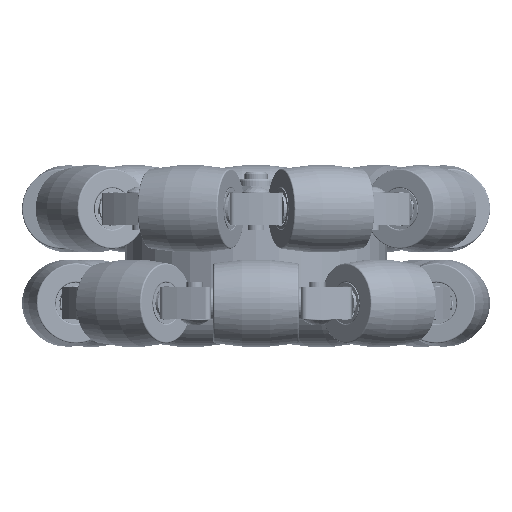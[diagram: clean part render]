
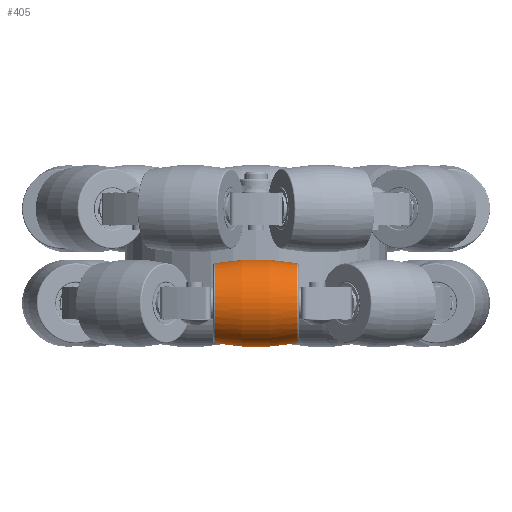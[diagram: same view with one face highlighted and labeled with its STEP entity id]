
A CAD part, front view. The second image highlights one B-rep face of the part: STEP entity #405.
In plain terms, the highlighted toroidal (fillet/blend) face has major radius 41.3 mm and minor radius 50.8 mm.
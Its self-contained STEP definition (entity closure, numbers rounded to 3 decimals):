
#335 = AXIS2_PLACEMENT_3D ( 'NONE', #13625, #6665, #14790 ) ;
#405 = ADVANCED_FACE ( 'NONE', ( #8390 ), #11436, .T. ) ;
#1054 = DIRECTION ( 'NONE',  ( 0., 1., 0. ) ) ;
#2496 = DIRECTION ( 'NONE',  ( -1., 0., 0. ) ) ;
#2981 = DIRECTION ( 'NONE',  ( 1., 0., 0. ) ) ;
#3605 = VERTEX_POINT ( 'NONE', #9318 ) ;
#3649 = EDGE_CURVE ( 'NONE', #3605, #9106, #14772, .T. ) ;
#4134 = CARTESIAN_POINT ( 'NONE',  ( -9.003, 41.3, -8.696 ) ) ;
#4206 = AXIS2_PLACEMENT_3D ( 'NONE', #7996, #1054, #9141 ) ;
#4370 = ORIENTED_EDGE ( 'NONE', *, *, #8068, .F. ) ;
#4914 = CIRCLE ( 'NONE', #4206, 50.8 ) ;
#6048 = AXIS2_PLACEMENT_3D ( 'NONE', #9913, #2981, #11068 ) ;
#6411 = CARTESIAN_POINT ( 'NONE',  ( 9.003, 41.3, -8.696 ) ) ;
#6665 = DIRECTION ( 'NONE',  ( 0., -1., 0. ) ) ;
#6703 = CARTESIAN_POINT ( 'NONE',  ( 0., 41.3, 0. ) ) ;
#7469 = CIRCLE ( 'NONE', #6048, 8.696 ) ;
#7953 = EDGE_CURVE ( 'NONE', #12795, #12053, #7469, .T. ) ;
#7996 = CARTESIAN_POINT ( 'NONE',  ( 0., 41.3, 41.3 ) ) ;
#8068 = EDGE_CURVE ( 'NONE', #3605, #12053, #12912, .T. ) ;
#8165 = EDGE_CURVE ( 'NONE', #9106, #12795, #4914, .T. ) ;
#8390 = FACE_OUTER_BOUND ( 'NONE', #10977, .T. ) ;
#8611 = CARTESIAN_POINT ( 'NONE',  ( -9.003, 41.3, 8.696 ) ) ;
#9106 = VERTEX_POINT ( 'NONE', #6411 ) ;
#9141 = DIRECTION ( 'NONE',  ( 0., 0., 1. ) ) ;
#9318 = CARTESIAN_POINT ( 'NONE',  ( 9.003, 41.3, 8.696 ) ) ;
#9421 = CARTESIAN_POINT ( 'NONE',  ( 9.003, 41.3, 0. ) ) ;
#9913 = CARTESIAN_POINT ( 'NONE',  ( -9.003, 41.3, 0. ) ) ;
#10219 = ORIENTED_EDGE ( 'NONE', *, *, #8165, .T. ) ;
#10571 = DIRECTION ( 'NONE',  ( 0., 0., 1. ) ) ;
#10744 = AXIS2_PLACEMENT_3D ( 'NONE', #9421, #2496, #10571 ) ;
#10977 = EDGE_LOOP ( 'NONE', ( #15008, #10219, #12400, #4370 ) ) ;
#11068 = DIRECTION ( 'NONE',  ( 0., 0., -1. ) ) ;
#11436 = TOROIDAL_SURFACE ( 'NONE', #14228, -41.3, 50.8 ) ;
#12053 = VERTEX_POINT ( 'NONE', #8611 ) ;
#12400 = ORIENTED_EDGE ( 'NONE', *, *, #7953, .T. ) ;
#12474 = DIRECTION ( 'NONE',  ( 0., 0., 1. ) ) ;
#12522 = DIRECTION ( 'NONE',  ( -1., 0., 0. ) ) ;
#12795 = VERTEX_POINT ( 'NONE', #4134 ) ;
#12912 = CIRCLE ( 'NONE', #335, 50.8 ) ;
#13625 = CARTESIAN_POINT ( 'NONE',  ( 0., 41.3, -41.3 ) ) ;
#14228 = AXIS2_PLACEMENT_3D ( 'NONE', #6703, #12522, #12474 ) ;
#14772 = CIRCLE ( 'NONE', #10744, 8.696 ) ;
#14790 = DIRECTION ( 'NONE',  ( 0., 0., -1. ) ) ;
#15008 = ORIENTED_EDGE ( 'NONE', *, *, #3649, .T. ) ;
